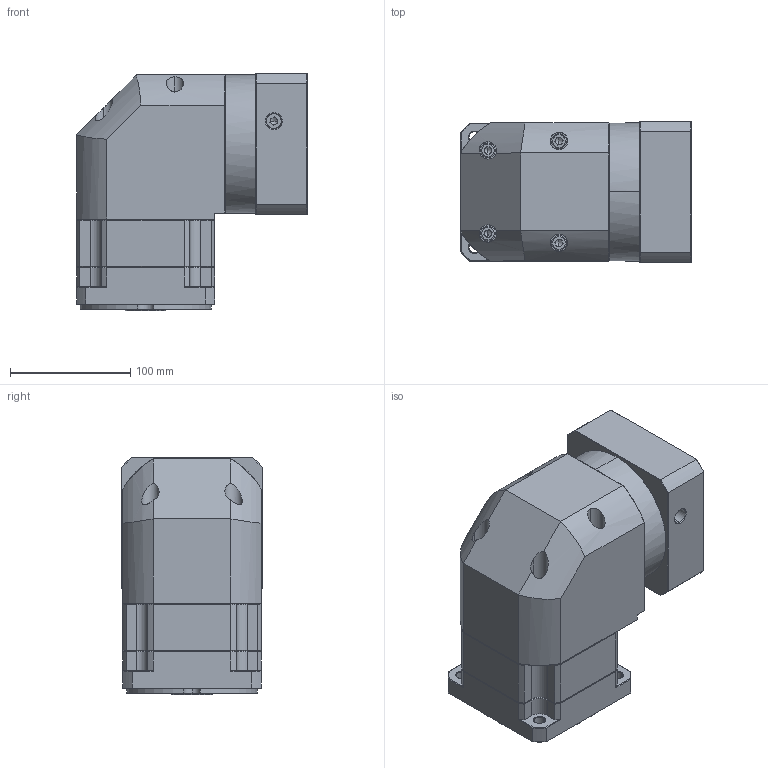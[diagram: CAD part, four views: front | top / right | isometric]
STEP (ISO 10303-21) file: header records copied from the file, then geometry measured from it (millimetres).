
FILE_DESCRIPTION (( 'STEP AP214' ), '1' );
FILE_NAME ('ZBR115A-K25-L1-P2-24-110-130-M8.step', '2023-08-26T12:42:41', ( '' ), ( '' ), 'SwSTEP 2.0', 'SolidWorks 2016', '' );
FILE_SCHEMA (( 'AUTOMOTIVE_DESIGN' ));
Length unit declared in the file: millimetre
Products named in the file (1): ZBR115A-K25-L1-P2-24-110-130-M8
Bounding box: 192.4 x 118 x 198 mm (x, y, z)
Volume: 2889727.9 mm3; surface area: 244495.1 mm2
Topology: 6 solids, 6 shells, 2324 faces, 6098 edges, 3878 vertices
Faces by surface type: plane 1132, bspline 415, cylinder 406, cone 363, torus 8
Entity records: 122699 total; most frequent: CARTESIAN_POINT 43239, ORIENTED_EDGE 12140, DIRECTION 9615, EDGE_CURVE 6070, LINE 3939, VECTOR 3939, VERTEX_POINT 3878, AXIS2_PLACEMENT_3D 2838
